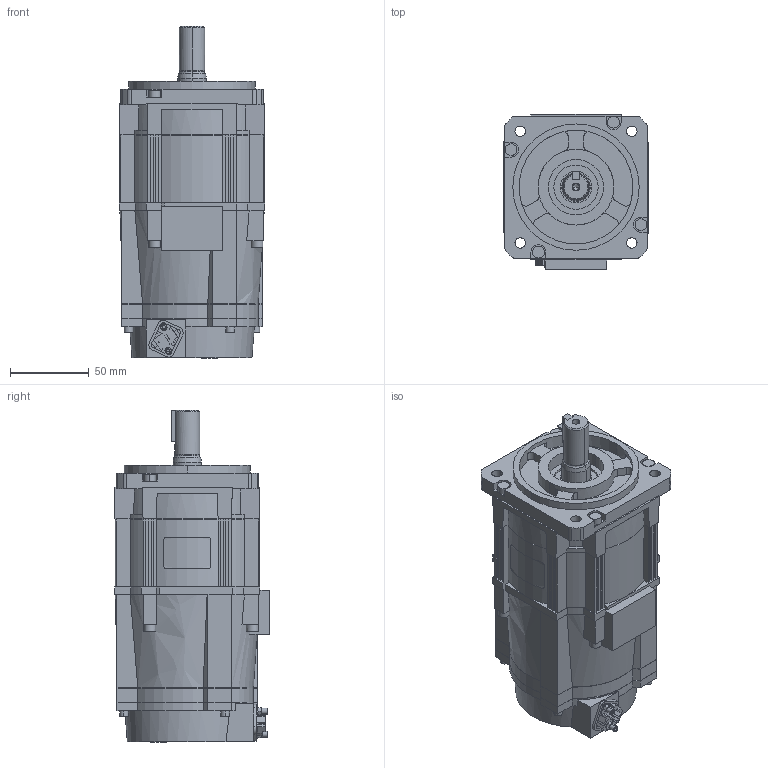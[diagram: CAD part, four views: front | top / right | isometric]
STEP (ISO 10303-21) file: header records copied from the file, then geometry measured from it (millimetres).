
FILE_DESCRIPTION( (''), '2;1');
FILE_NAME ('sgmxg_05aua6ca1.stp','2024-03-08T11:09:00',(''),(''),'spGate 15.6.6','','');
FILE_SCHEMA (('AUTOMOTIVE_DESIGN'));
Length unit declared in the file: millimetre
Products named in the file (3): Assembly; sgmxg_05aua6ca1-prt0; sgmxg_05aua6ca1-prt1
Assembly tree (2 placements, depth 2):
  Assembly
    sgmxg_05aua6ca1-prt0
    sgmxg_05aua6ca1-prt1
Bounding box: 92 x 98 x 210.2 mm (x, y, z)
Volume: 1135775.7 mm3; surface area: 90293.1 mm2
Topology: 2 solids, 2 shells, 607 faces, 1672 edges, 1100 vertices
Faces by surface type: plane 426, cylinder 163, bspline 18
Entity records: 32669 total; most frequent: CARTESIAN_POINT 3950, ORIENTED_EDGE 3340, DIRECTION 3130, COLOUR_RGB 2279, PRESENTATION_STYLE_ASSIGNMENT 2279, STYLED_ITEM 2279, EDGE_CURVE 1670, DRAUGHTING_PRE_DEFINED_CURVE_FONT 1670
